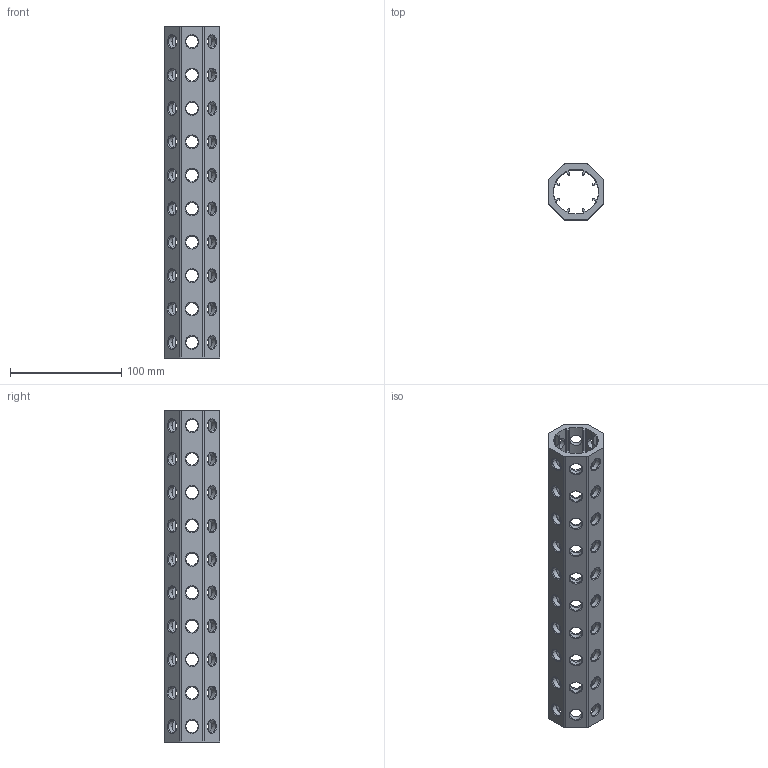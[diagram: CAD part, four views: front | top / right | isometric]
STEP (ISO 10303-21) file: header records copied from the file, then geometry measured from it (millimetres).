
FILE_DESCRIPTION(('CATIA V5 STEP Exchange'),'2;1');
FILE_NAME('U:\Room\唐宝山\EGT002\46-01-010239-01-EGT002-298.stp','2021-08-24T00:58:39+00:00',('none'),('none'),'CATIA Version 5 Release 21 GA (IN-10)','CATIA V5 STEP AP203','none');
FILE_SCHEMA(('CONFIG_CONTROL_DESIGN'));
Length unit declared in the file: millimetre
Products named in the file (1): 46-01-010239-01-EGT002-298
Bounding box: 50 x 50 x 298 mm (x, y, z)
Volume: 212102.1 mm3; surface area: 103789.6 mm2
Topology: 1 solids, 1 shells, 484 faces, 1346 edges, 844 vertices
Faces by surface type: cone 240, cylinder 218, plane 26
Entity records: 19464 total; most frequent: CARTESIAN_POINT 7567, ORIENTED_EDGE 2692, DIRECTION 1942, EDGE_CURVE 1346, AXIS2_PLACEMENT_3D 909, VERTEX_POINT 844, EDGE_LOOP 626, VECTOR 550
